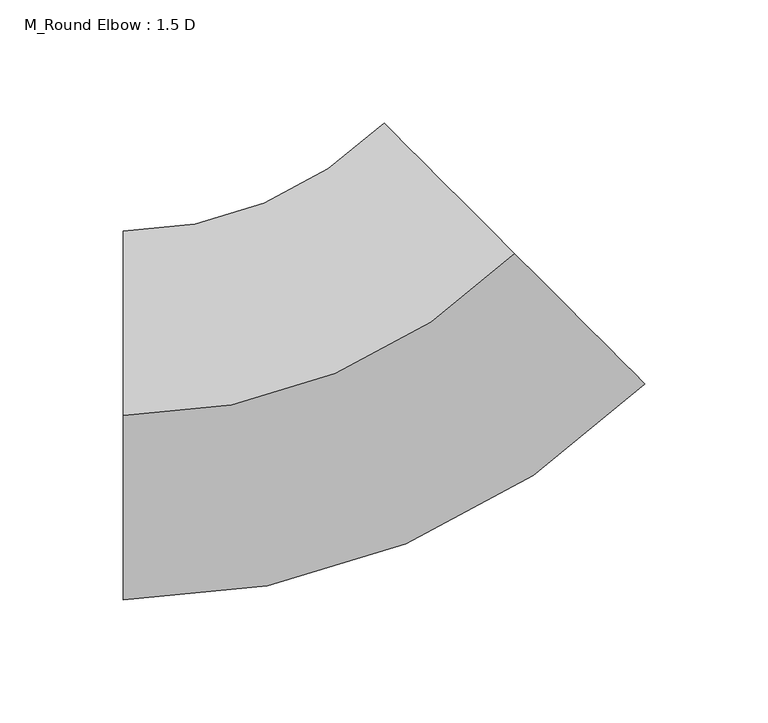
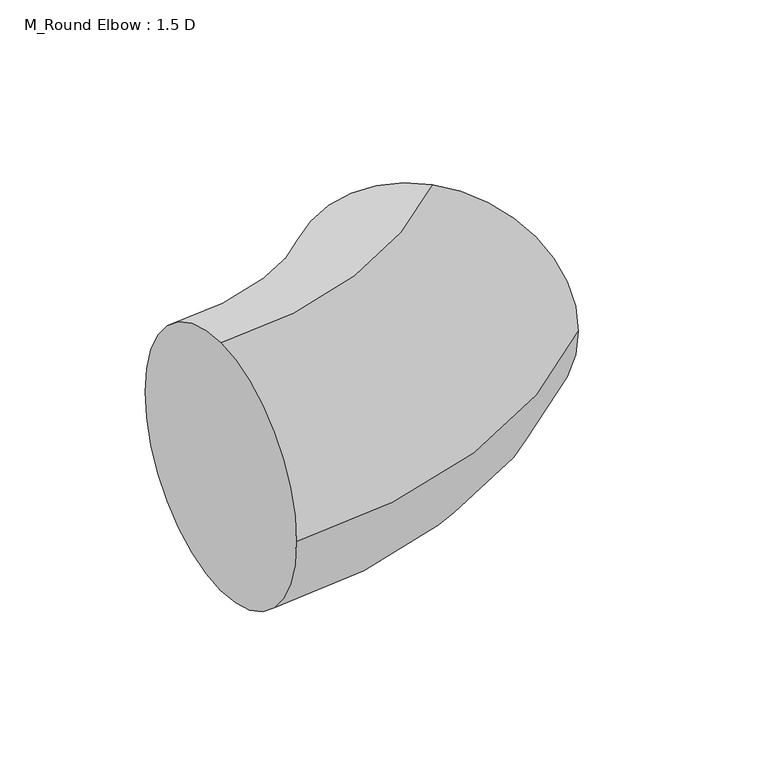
"""IFC4 building model written with IfcOpenShell, lengths in millimetres: duct fitting geometry, M_Round Elbow : 1.5 D."""

from ifc_helpers import new_model, si_unit, point, frame, origin, place, context, project, spatial, circle_curve, ellipse_curve, trimmed, source, transform, mapped, element, save
from ifc_brep_helpers import plane_surface, revolved_surface, advanced_brep


def m_round_elbow_1_5_d_fa134dda(model_context):
    return source(origin(), model_context, "Body", "AdvancedBrep", [
        advanced_brep(
        [(-93.1980515, 0.0, 75.0), (-93.1980515, 75.0, 0.0), (-93.1980515, 0.0, -75.0), (-93.1980515, -75.0, 0.0), (65.9009742, 65.9009742, 75.0), (118.9339828, 12.8679656, 0.0), (65.9009742, 65.9009742, -75.0), (12.8679656, 118.9339828, 0.0)],
        [
            (0, 1, circle_curve(frame((-93.1980515, 0.0, 0.0), z_axis=(-1.0, 0.0, 0.0), x_axis=(0.0, 1.0, 0.0)), 75.0)),
            (1, 2, circle_curve(frame((-93.1980515, 0.0, 0.0), z_axis=(-1.0, 0.0, 0.0), x_axis=(0.0, 1.0, 0.0)), 75.0)),
            (2, 3, circle_curve(frame((-93.1980515, 0.0, 0.0), z_axis=(-1.0, 0.0, 0.0), x_axis=(0.0, 1.0, 0.0)), 75.0)),
            (3, 0, circle_curve(frame((-93.1980515, 0.0, 0.0), z_axis=(-1.0, 0.0, 0.0), x_axis=(0.0, 1.0, 0.0)), 75.0)),
            (4, 5, circle_curve(frame((65.9009742, 65.9009742, 0.0), z_axis=(0.707106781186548, 0.707106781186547, 0.0), x_axis=(-0.707106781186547, 0.707106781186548, 0.0)), 75.0)),
            (5, 6, circle_curve(frame((65.9009742, 65.9009742, 0.0), z_axis=(0.707106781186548, 0.707106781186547, 0.0), x_axis=(-0.707106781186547, 0.707106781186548, 0.0)), 75.0)),
            (6, 7, circle_curve(frame((65.9009742, 65.9009742, 0.0), z_axis=(0.707106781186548, 0.707106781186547, 0.0), x_axis=(-0.707106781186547, 0.707106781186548, 0.0)), 75.0)),
            (7, 4, circle_curve(frame((65.9009742, 65.9009742, 0.0), z_axis=(0.707106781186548, 0.707106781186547, 0.0), x_axis=(-0.707106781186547, 0.707106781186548, 0.0)), 75.0)),
            (7, 1, circle_curve(frame((-93.1980515, 225.0, 0.0), z_axis=(0.0, 0.0, -1.0), x_axis=(0.0, -1.0, 0.0)), 150.0)),
            (0, 4, circle_curve(frame((-93.1980515, 225.0, 75.0), z_axis=(0.0, 0.0, 1.0), x_axis=(0.0, -1.0, 0.0)), 225.0)),
            (6, 2, circle_curve(frame((-93.1980515, 225.0, -75.0), z_axis=(0.0, 0.0, -1.0), x_axis=(0.0, -1.0, 0.0)), 225.0)),
            (5, 3, circle_curve(frame((-93.1980515, 225.0, 0.0), z_axis=(0.0, 0.0, -1.0), x_axis=(0.0, -1.0, 0.0)), 300.0)),
        ],
        [
            plane_surface(frame((-93.1980515, 0.0, 0.0), z_axis=(-1.0, 0.0, 0.0), x_axis=(0.0, 0.0, 1.0))),
            plane_surface(frame((65.9009742, 65.9009742, 0.0), z_axis=(0.707106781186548, 0.7071067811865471, 0.0), x_axis=(0.0, 0.0, 1.0))),
            revolved_surface(trimmed(ellipse_curve(frame((-93.1980515, 0.0, 0.0), z_axis=(-1.0, 0.0, 0.0), x_axis=(0.0, 1.0, 0.0)), 75.0, 75.0), [point((-93.1980515, 0.0, 75.0))], [point((-93.1980515, 75.0, 0.0))], True, "CARTESIAN"), (-93.1980515, 225.0, 0.0), (0.0, 0.0, 1.0)),
            revolved_surface(trimmed(ellipse_curve(frame((-93.1980515, 0.0, 0.0), z_axis=(-1.0, 0.0, 0.0), x_axis=(0.0, 1.0, 0.0)), 75.0, 75.0), [point((-93.1980515, 75.0, 0.0))], [point((-93.1980515, 0.0, -75.0))], True, "CARTESIAN"), (-93.1980515, 225.0, 0.0), (0.0, 0.0, 1.0)),
            revolved_surface(trimmed(ellipse_curve(frame((-93.1980515, 0.0, 0.0), z_axis=(-1.0, 0.0, 0.0), x_axis=(0.0, 1.0, 0.0)), 75.0, 75.0), [point((-93.1980515, 0.0, -75.0))], [point((-93.1980515, -75.0, 0.0))], True, "CARTESIAN"), (-93.1980515, 225.0, 0.0), (0.0, 0.0, 1.0)),
            revolved_surface(trimmed(ellipse_curve(frame((-93.1980515, 0.0, 0.0), z_axis=(-1.0, 0.0, 0.0), x_axis=(0.0, 1.0, 0.0)), 75.0, 75.0), [point((-93.1980515, -75.0, 0.0))], [point((-93.1980515, 0.0, 75.0))], True, "CARTESIAN"), (-93.1980515, 225.0, 0.0), (0.0, 0.0, 1.0)),
        ],
        [
            (0, [[1, 2, 3, 4]]),
            (1, [[5, 6, 7, 8]]),
            (2, [[9, -1, 10, -8]]),
            (3, [[11, -2, -9, -7]]),
            (4, [[12, -3, -11, -6]]),
            (5, [[-10, -4, -12, -5]]),
        ],
    ),
        advanced_brep(
        [(-93.1980515, 0.0, 75.0), (-93.1980515, 75.0, 0.0), (-93.1980515, 0.0, -75.0), (-93.1980515, -75.0, 0.0), (65.9009742, 65.9009742, 75.0), (118.9339828, 12.8679656, 0.0), (65.9009742, 65.9009742, -75.0), (12.8679656, 118.9339828, 0.0)],
        [
            (0, 1, circle_curve(frame((-93.1980515, 0.0, 0.0), z_axis=(-1.0, 0.0, 0.0), x_axis=(0.0, 1.0, 0.0)), 75.0)),
            (1, 2, circle_curve(frame((-93.1980515, 0.0, 0.0), z_axis=(-1.0, 0.0, 0.0), x_axis=(0.0, 1.0, 0.0)), 75.0)),
            (2, 3, circle_curve(frame((-93.1980515, 0.0, 0.0), z_axis=(-1.0, 0.0, 0.0), x_axis=(0.0, 1.0, 0.0)), 75.0)),
            (3, 0, circle_curve(frame((-93.1980515, 0.0, 0.0), z_axis=(-1.0, 0.0, 0.0), x_axis=(0.0, 1.0, 0.0)), 75.0)),
            (4, 5, circle_curve(frame((65.9009742, 65.9009742, 0.0), z_axis=(0.707106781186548, 0.707106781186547, 0.0), x_axis=(-0.707106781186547, 0.707106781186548, 0.0)), 75.0)),
            (5, 6, circle_curve(frame((65.9009742, 65.9009742, 0.0), z_axis=(0.707106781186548, 0.707106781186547, 0.0), x_axis=(-0.707106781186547, 0.707106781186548, 0.0)), 75.0)),
            (6, 7, circle_curve(frame((65.9009742, 65.9009742, 0.0), z_axis=(0.707106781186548, 0.707106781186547, 0.0), x_axis=(-0.707106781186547, 0.707106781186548, 0.0)), 75.0)),
            (7, 4, circle_curve(frame((65.9009742, 65.9009742, 0.0), z_axis=(0.707106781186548, 0.707106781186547, 0.0), x_axis=(-0.707106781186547, 0.707106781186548, 0.0)), 75.0)),
            (7, 1, circle_curve(frame((-93.1980515, 225.0, 0.0), z_axis=(0.0, 0.0, -1.0), x_axis=(0.0, -1.0, 0.0)), 150.0)),
            (0, 4, circle_curve(frame((-93.1980515, 225.0, 75.0), z_axis=(0.0, 0.0, 1.0), x_axis=(0.0, -1.0, 0.0)), 225.0)),
            (6, 2, circle_curve(frame((-93.1980515, 225.0, -75.0), z_axis=(0.0, 0.0, -1.0), x_axis=(0.0, -1.0, 0.0)), 225.0)),
            (5, 3, circle_curve(frame((-93.1980515, 225.0, 0.0), z_axis=(0.0, 0.0, -1.0), x_axis=(0.0, -1.0, 0.0)), 300.0)),
        ],
        [
            plane_surface(frame((-93.1980515, 0.0, 0.0), z_axis=(-1.0, 0.0, 0.0), x_axis=(0.0, 0.0, 1.0))),
            plane_surface(frame((65.9009742, 65.9009742, 0.0), z_axis=(0.707106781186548, 0.7071067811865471, 0.0), x_axis=(0.0, 0.0, 1.0))),
            revolved_surface(trimmed(ellipse_curve(frame((-93.1980515, 0.0, 0.0), z_axis=(-1.0, 0.0, 0.0), x_axis=(0.0, 1.0, 0.0)), 75.0, 75.0), [point((-93.1980515, 0.0, 75.0))], [point((-93.1980515, 75.0, 0.0))], True, "CARTESIAN"), (-93.1980515, 225.0, 0.0), (0.0, 0.0, 1.0)),
            revolved_surface(trimmed(ellipse_curve(frame((-93.1980515, 0.0, 0.0), z_axis=(-1.0, 0.0, 0.0), x_axis=(0.0, 1.0, 0.0)), 75.0, 75.0), [point((-93.1980515, 75.0, 0.0))], [point((-93.1980515, 0.0, -75.0))], True, "CARTESIAN"), (-93.1980515, 225.0, 0.0), (0.0, 0.0, 1.0)),
            revolved_surface(trimmed(ellipse_curve(frame((-93.1980515, 0.0, 0.0), z_axis=(-1.0, 0.0, 0.0), x_axis=(0.0, 1.0, 0.0)), 75.0, 75.0), [point((-93.1980515, 0.0, -75.0))], [point((-93.1980515, -75.0, 0.0))], True, "CARTESIAN"), (-93.1980515, 225.0, 0.0), (0.0, 0.0, 1.0)),
            revolved_surface(trimmed(ellipse_curve(frame((-93.1980515, 0.0, 0.0), z_axis=(-1.0, 0.0, 0.0), x_axis=(0.0, 1.0, 0.0)), 75.0, 75.0), [point((-93.1980515, -75.0, 0.0))], [point((-93.1980515, 0.0, 75.0))], True, "CARTESIAN"), (-93.1980515, 225.0, 0.0), (0.0, 0.0, 1.0)),
        ],
        [
            (0, [[1, 2, 3, 4]]),
            (1, [[5, 6, 7, 8]]),
            (2, [[9, -1, 10, -8]]),
            (3, [[11, -2, -9, -7]]),
            (4, [[12, -3, -11, -6]]),
            (5, [[-10, -4, -12, -5]]),
        ],
    ),
        advanced_brep(
        [(-93.1980515, 0.0, 75.0), (-93.1980515, 75.0, 0.0), (-93.1980515, 0.0, -75.0), (-93.1980515, -75.0, 0.0), (65.9009742, 65.9009742, 75.0), (118.9339828, 12.8679656, 0.0), (65.9009742, 65.9009742, -75.0), (12.8679656, 118.9339828, 0.0)],
        [
            (0, 1, circle_curve(frame((-93.1980515, 0.0, 0.0), z_axis=(-1.0, 0.0, 0.0), x_axis=(0.0, 1.0, 0.0)), 75.0)),
            (1, 2, circle_curve(frame((-93.1980515, 0.0, 0.0), z_axis=(-1.0, 0.0, 0.0), x_axis=(0.0, 1.0, 0.0)), 75.0)),
            (2, 3, circle_curve(frame((-93.1980515, 0.0, 0.0), z_axis=(-1.0, 0.0, 0.0), x_axis=(0.0, 1.0, 0.0)), 75.0)),
            (3, 0, circle_curve(frame((-93.1980515, 0.0, 0.0), z_axis=(-1.0, 0.0, 0.0), x_axis=(0.0, 1.0, 0.0)), 75.0)),
            (4, 5, circle_curve(frame((65.9009742, 65.9009742, 0.0), z_axis=(0.707106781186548, 0.707106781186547, 0.0), x_axis=(-0.707106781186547, 0.707106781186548, 0.0)), 75.0)),
            (5, 6, circle_curve(frame((65.9009742, 65.9009742, 0.0), z_axis=(0.707106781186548, 0.707106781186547, 0.0), x_axis=(-0.707106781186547, 0.707106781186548, 0.0)), 75.0)),
            (6, 7, circle_curve(frame((65.9009742, 65.9009742, 0.0), z_axis=(0.707106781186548, 0.707106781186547, 0.0), x_axis=(-0.707106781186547, 0.707106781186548, 0.0)), 75.0)),
            (7, 4, circle_curve(frame((65.9009742, 65.9009742, 0.0), z_axis=(0.707106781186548, 0.707106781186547, 0.0), x_axis=(-0.707106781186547, 0.707106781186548, 0.0)), 75.0)),
            (7, 1, circle_curve(frame((-93.1980515, 225.0, 0.0), z_axis=(0.0, 0.0, -1.0), x_axis=(0.0, -1.0, 0.0)), 150.0)),
            (0, 4, circle_curve(frame((-93.1980515, 225.0, 75.0), z_axis=(0.0, 0.0, 1.0), x_axis=(0.0, -1.0, 0.0)), 225.0)),
            (6, 2, circle_curve(frame((-93.1980515, 225.0, -75.0), z_axis=(0.0, 0.0, -1.0), x_axis=(0.0, -1.0, 0.0)), 225.0)),
            (5, 3, circle_curve(frame((-93.1980515, 225.0, 0.0), z_axis=(0.0, 0.0, -1.0), x_axis=(0.0, -1.0, 0.0)), 300.0)),
        ],
        [
            plane_surface(frame((-93.1980515, 0.0, 0.0), z_axis=(-1.0, 0.0, 0.0), x_axis=(0.0, 0.0, 1.0))),
            plane_surface(frame((65.9009742, 65.9009742, 0.0), z_axis=(0.707106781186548, 0.7071067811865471, 0.0), x_axis=(0.0, 0.0, 1.0))),
            revolved_surface(trimmed(ellipse_curve(frame((-93.1980515, 0.0, 0.0), z_axis=(-1.0, 0.0, 0.0), x_axis=(0.0, 1.0, 0.0)), 75.0, 75.0), [point((-93.1980515, 0.0, 75.0))], [point((-93.1980515, 75.0, 0.0))], True, "CARTESIAN"), (-93.1980515, 225.0, 0.0), (0.0, 0.0, 1.0)),
            revolved_surface(trimmed(ellipse_curve(frame((-93.1980515, 0.0, 0.0), z_axis=(-1.0, 0.0, 0.0), x_axis=(0.0, 1.0, 0.0)), 75.0, 75.0), [point((-93.1980515, 75.0, 0.0))], [point((-93.1980515, 0.0, -75.0))], True, "CARTESIAN"), (-93.1980515, 225.0, 0.0), (0.0, 0.0, 1.0)),
            revolved_surface(trimmed(ellipse_curve(frame((-93.1980515, 0.0, 0.0), z_axis=(-1.0, 0.0, 0.0), x_axis=(0.0, 1.0, 0.0)), 75.0, 75.0), [point((-93.1980515, 0.0, -75.0))], [point((-93.1980515, -75.0, 0.0))], True, "CARTESIAN"), (-93.1980515, 225.0, 0.0), (0.0, 0.0, 1.0)),
            revolved_surface(trimmed(ellipse_curve(frame((-93.1980515, 0.0, 0.0), z_axis=(-1.0, 0.0, 0.0), x_axis=(0.0, 1.0, 0.0)), 75.0, 75.0), [point((-93.1980515, -75.0, 0.0))], [point((-93.1980515, 0.0, 75.0))], True, "CARTESIAN"), (-93.1980515, 225.0, 0.0), (0.0, 0.0, 1.0)),
        ],
        [
            (0, [[1, 2, 3, 4]]),
            (1, [[5, 6, 7, 8]]),
            (2, [[9, -1, 10, -8]]),
            (3, [[11, -2, -9, -7]]),
            (4, [[12, -3, -11, -6]]),
            (5, [[-10, -4, -12, -5]]),
        ],
    ),
    ])


if __name__ == "__main__":
    model = new_model("IFC4")
    model_context = context("Model", 3, world=origin())
    ifc_project = project(units=[si_unit("LENGTHUNIT", "METRE", prefix="MILLI")], contexts=[model_context])
    site = spatial("IfcSite", under=ifc_project)
    building = spatial("IfcBuilding", under=site)
    placement = place(None, origin())
    m_round_elbow_1_5_d_shape = m_round_elbow_1_5_d_fa134dda(model_context)
    element("IfcDuctFitting", 1, ObjectType="M_Round Elbow : 1.5 D", at=placement, inside=building, context=model_context, shape_type="MappedRepresentation", body=[
        mapped(m_round_elbow_1_5_d_shape, transform((0.0, 0.0, 0.0), x_axis=(1.0, 0.0, 0.0), y_axis=(0.0, 1.0, 0.0), z_axis=(0.0, 0.0, 1.0))),
    ])
    save(model, "model.ifc")
